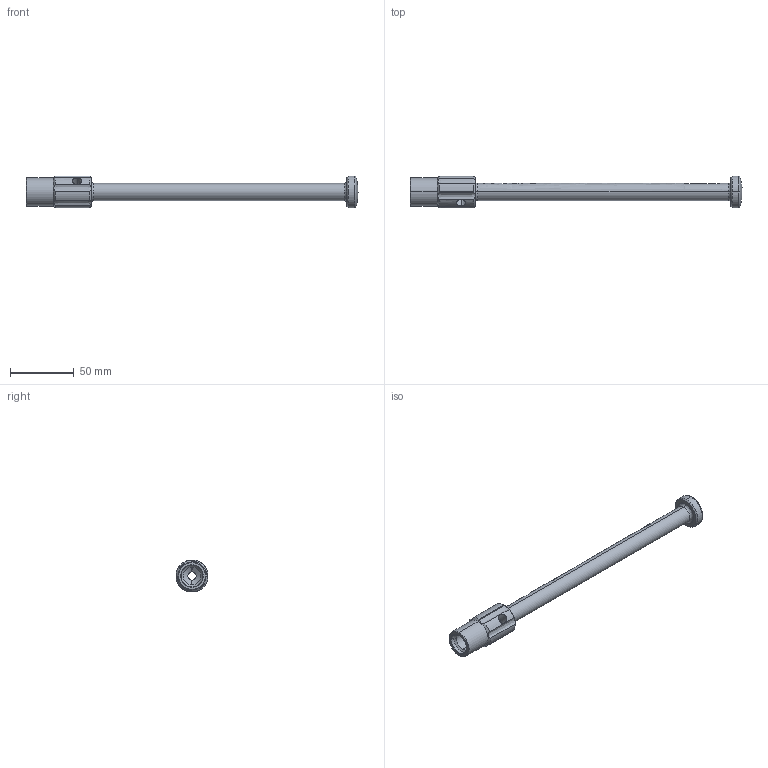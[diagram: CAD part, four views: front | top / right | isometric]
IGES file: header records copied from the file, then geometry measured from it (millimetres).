
Start section: SolidWorks IGES file using analytic representation for surfaces
Global section: file name: C:\Users\e.bondaruk\Desktop\縺 嚦闉鍙酀50.00.5020.IGS; native system: SolidWorks 2022; preprocessor: SolidWorks 2022; author: e.bondaruk; date: 230210.130827; units: millimetre
Bounding box: 259.77 x 25 x 25 mm (x, y, z)
Surface area: 20745.7 mm2 (no closed solid volume)
Topology: 0 solids, 0 shells, 86 faces, 2476 edges, 2476 vertices
Faces by surface type: revolution 73, bspline 13
